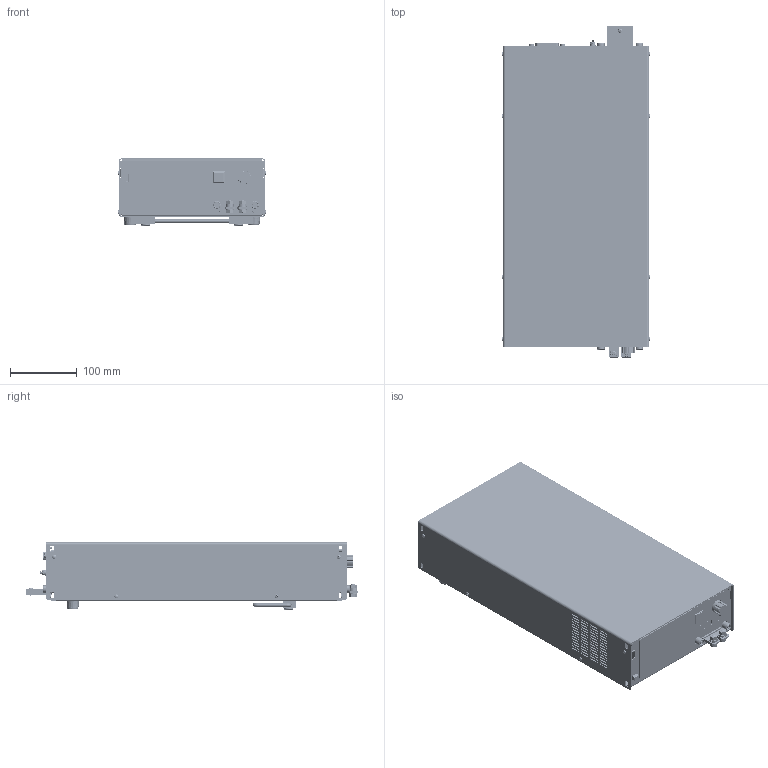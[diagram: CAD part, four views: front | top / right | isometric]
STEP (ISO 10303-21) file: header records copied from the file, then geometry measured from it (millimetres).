
FILE_DESCRIPTION(('STEP AP214'),'1');
FILE_NAME('TRL_M1_H19Z_2HE_FKL15_4_SM6_FKL15_4_SM6_A_3D_01.step','2021-07-20T08:22:30',(' '),(' '),'Spatial InterOp 3D',' ',' ');
FILE_SCHEMA(('AUTOMOTIVE_DESIGN { 1 0 10303 214 1 1 1 1 }'));
Length unit declared in the file: millimetre
Products named in the file (27): DIN 125-AxM6x0; DIN 980xM6 X 0.5x0; DIN 933xM6 X 1x16; 2146_TRL Bodenplatte_3D_03; PEM_M5; AutoCreatedBlock_1329; 2152_TRL_Frontplatte_Schienen_3D_03_mit Einbauten; 2152_TRL_Frontplatte_Schienen_03_3D; AutoCreatedBlock_1333; 2145_TRL_Rueckwand_Schienen_3D_02_mit_Schienen_3D_02_mit_Einbauten; *U567; 7604_KVT 0006M3; *U568; 1F840730; *U570; *U571; *U572; *U573; *U574; *U575; *U576; *U577; AutoCreatedBlock_1337; DIN 127-B; DIN 7985-A; AutoCreatedBlock_1319
Assembly tree (48 placements, depth 3):
  (unnamed)
    DIN 125-AxM6x0  x4
    DIN 980xM6 X 0.5x0  x2
    DIN 933xM6 X 1x16  x2
    2146_TRL Bodenplatte_3D_03
      PEM_M5  x2
      AutoCreatedBlock_1329
    2152_TRL_Frontplatte_Schienen_3D_03_mit Einbauten
      2152_TRL_Frontplatte_Schienen_03_3D
      AutoCreatedBlock_1333
    2145_TRL_Rueckwand_Schienen_3D_02_mit_Schienen_3D_02_mit_Einbauten
      *U567  x4
      7604_KVT 0006M3
      *U568
      1F840730  x2
      *U570
      *U571
      *U572
      *U573
      *U574
      *U575  x3
      *U576  x2
      *U577  x2
      AutoCreatedBlock_1337
    DIN 127-B  x2
    DIN 7985-A  x8
    AutoCreatedBlock_1319
Bounding box: 222.66 x 497.09 x 100.7 mm (x, y, z)
Volume: 7515157.7 mm3; surface area: 1077117.6 mm2
Topology: 183 solids, 238 shells, 11144 faces, 28166 edges, 17752 vertices
Faces by surface type: plane 5102, cone 3263, cylinder 2171, bspline 344, torus 178, sphere 84, extrusion 2
Entity records: 372100 total; most frequent: CARTESIAN_POINT 64436, DIRECTION 48360, ORIENTED_EDGE 46742, EDGE_CURVE 23509, AXIS2_PLACEMENT_3D 16242, VECTOR 15876, LINE 15874, VERTEX_POINT 14644
